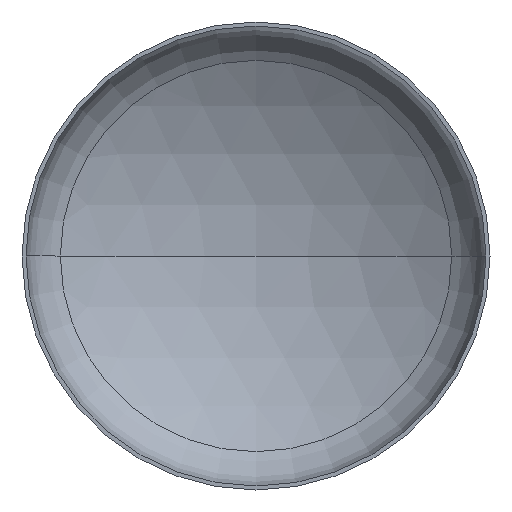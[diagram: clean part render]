
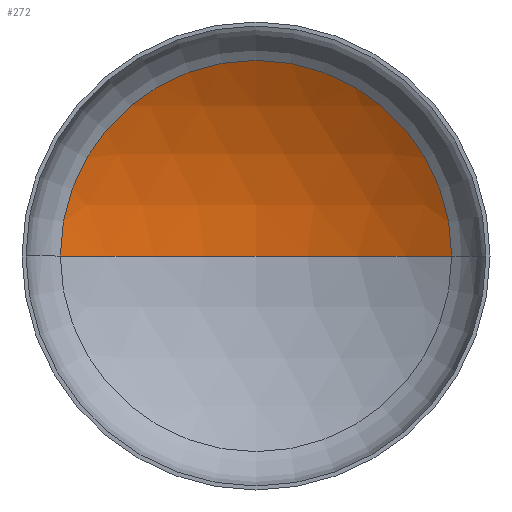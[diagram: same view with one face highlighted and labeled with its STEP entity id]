
A CAD part, front view. The second image highlights one B-rep face of the part: STEP entity #272.
In plain terms, the highlighted spherical face has radius 1120 mm.
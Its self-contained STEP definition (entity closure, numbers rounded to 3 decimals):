
#13 = AXIS2_PLACEMENT_3D ( 'NONE', #391, #301, #312 ) ;
#18 = ORIENTED_EDGE ( 'NONE', *, *, #89, .T. ) ;
#42 = AXIS2_PLACEMENT_3D ( 'NONE', #280, #277, #269 ) ;
#43 = AXIS2_PLACEMENT_3D ( 'NONE', #349, #352, #353 ) ;
#45 = AXIS2_PLACEMENT_3D ( 'NONE', #393, #379, #400 ) ;
#61 = VERTEX_POINT ( 'NONE', #140 ) ;
#62 = VERTEX_POINT ( 'NONE', #396 ) ;
#75 = ORIENTED_EDGE ( 'NONE', *, *, #100, .T. ) ;
#77 = ORIENTED_EDGE ( 'NONE', *, *, #109, .F. ) ;
#89 = EDGE_CURVE ( 'NONE', #62, #93, #110, .T. ) ;
#93 = VERTEX_POINT ( 'NONE', #254 ) ;
#97 = EDGE_LOOP ( 'NONE', ( #77, #75, #18 ) ) ;
#100 = EDGE_CURVE ( 'NONE', #61, #62, #380, .T. ) ;
#109 = EDGE_CURVE ( 'NONE', #61, #93, #260, .T. ) ;
#110 = CIRCLE ( 'NONE', #45, 585.37 ) ;
#140 = CARTESIAN_POINT ( 'NONE',  ( 0., 388.446, 0. ) ) ;
#166 = SPHERICAL_SURFACE ( 'NONE', #13, 1120. ) ;
#254 = CARTESIAN_POINT ( 'NONE',  ( -585.37, 223.297, 0. ) ) ;
#260 = CIRCLE ( 'NONE', #42, 1120. ) ;
#269 = DIRECTION ( 'NONE',  ( 1., 0., 0. ) ) ;
#272 = ADVANCED_FACE ( 'NONE', ( #290 ), #166, .F. ) ;
#277 = DIRECTION ( 'NONE',  ( 0., 0., 1. ) ) ;
#280 = CARTESIAN_POINT ( 'NONE',  ( 0., -731.554, 0. ) ) ;
#290 = FACE_OUTER_BOUND ( 'NONE', #97, .T. ) ;
#301 = DIRECTION ( 'NONE',  ( 0., 0., -1. ) ) ;
#312 = DIRECTION ( 'NONE',  ( -1., 0., 0. ) ) ;
#349 = CARTESIAN_POINT ( 'NONE',  ( 0., -731.554, 0. ) ) ;
#352 = DIRECTION ( 'NONE',  ( 0., 0., -1. ) ) ;
#353 = DIRECTION ( 'NONE',  ( -1., 0., 0. ) ) ;
#379 = DIRECTION ( 'NONE',  ( 0., -1., 0. ) ) ;
#380 = CIRCLE ( 'NONE', #43, 1120. ) ;
#391 = CARTESIAN_POINT ( 'NONE',  ( 0., -731.554, 0. ) ) ;
#393 = CARTESIAN_POINT ( 'NONE',  ( 0., 223.297, 0. ) ) ;
#396 = CARTESIAN_POINT ( 'NONE',  ( 585.37, 223.297, 0. ) ) ;
#400 = DIRECTION ( 'NONE',  ( 1., 0., 0. ) ) ;
